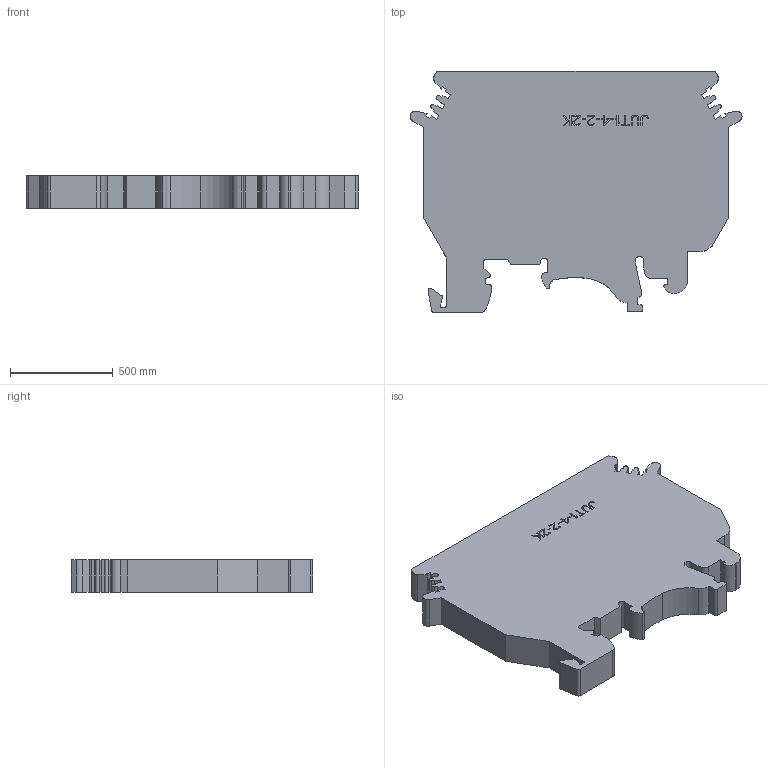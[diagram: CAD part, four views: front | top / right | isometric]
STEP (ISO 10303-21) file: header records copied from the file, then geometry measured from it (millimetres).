
FILE_DESCRIPTION((''),'2;1');
FILE_NAME('PRT0001','2022-04-18T',('Administrator'),(''),'PRO/ENGINEER BY PARAMETRIC TECHNOLOGY CORPORATION, 2008020','PRO/ENGINEER BY PARAMETRIC TECHNOLOGY CORPORATION, 2008020','');
FILE_SCHEMA(('CONFIG_CONTROL_DESIGN'));
Length unit declared in the file: inch
Products named in the file (1): PRT0001
Bounding box: 1612.84 x 1173.48 x 157.48 mm (x, y, z)
Volume: 219183363.4 mm3; surface area: 4489682.1 mm2
Topology: 1 solids, 1 shells, 320 faces, 906 edges, 604 vertices
Faces by surface type: plane 272, cylinder 48
Entity records: 10286 total; most frequent: CARTESIAN_POINT 1830, ORIENTED_EDGE 1812, DIRECTION 1642, EDGE_CURVE 906, VECTOR 810, LINE 810, VERTEX_POINT 604, AXIS2_PLACEMENT_3D 416
